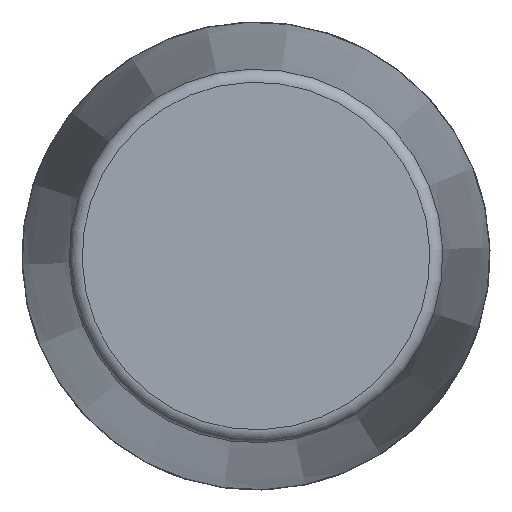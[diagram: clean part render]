
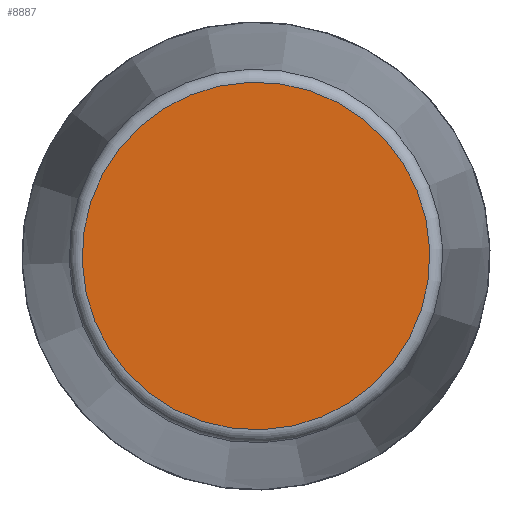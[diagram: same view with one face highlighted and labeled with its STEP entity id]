
A CAD part, front view. The second image highlights one B-rep face of the part: STEP entity #8887.
In plain terms, the highlighted planar face has unit normal (0, -1, 0) as drawn and (1, 0, 0) by its records, which use the part's own axes.
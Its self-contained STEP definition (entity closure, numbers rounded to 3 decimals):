
#2533=PLANE('',#9292);
#3116=FACE_OUTER_BOUND('',#3675,.T.);
#3675=EDGE_LOOP('',(#8373));
#3716=CIRCLE('',#9288,133.641);
#4578=VERTEX_POINT('',#16366);
#5846=EDGE_CURVE('',#4578,#4578,#3716,.T.);
#8373=ORIENTED_EDGE('',*,*,#5846,.F.);
#8887=ADVANCED_FACE('',(#3116),#2533,.T.);
#9288=AXIS2_PLACEMENT_3D('',#16367,#10781,#10782);
#9292=AXIS2_PLACEMENT_3D('',#16373,#10789,#10790);
#10781=DIRECTION('center_axis',(-1.,0.,0.));
#10782=DIRECTION('ref_axis',(0.,0.,
1.));
#10789=DIRECTION('center_axis',(1.,0.,0.));
#10790=DIRECTION('ref_axis',(0.,0.,-1.));
#16366=CARTESIAN_POINT('',(639.5,0.,-133.641));
#16367=CARTESIAN_POINT('Origin',(639.5,0.,0.));
#16373=CARTESIAN_POINT('Origin',(639.5,0.,0.));
